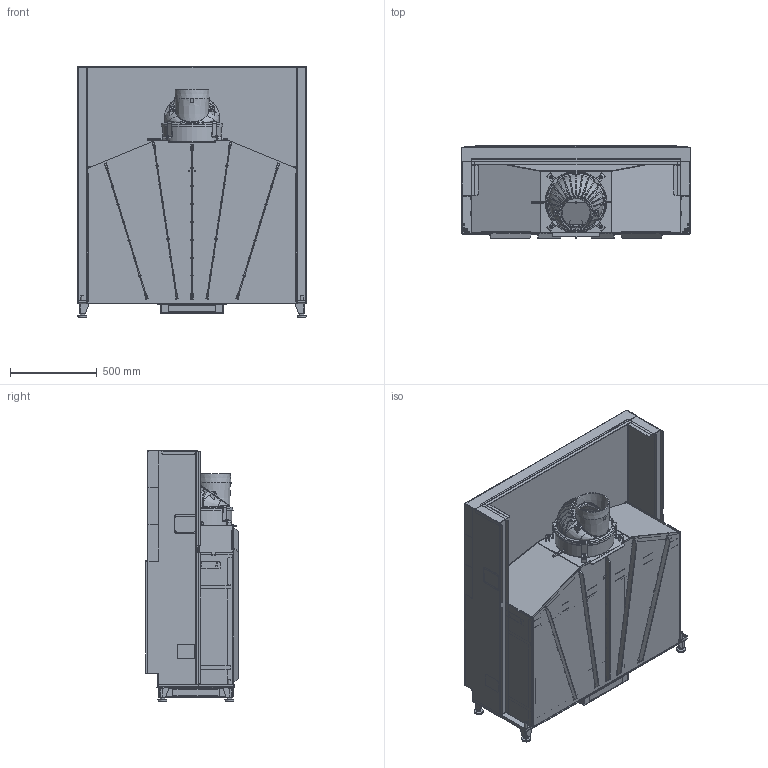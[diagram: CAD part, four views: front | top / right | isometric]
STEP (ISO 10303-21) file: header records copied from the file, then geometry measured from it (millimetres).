
FILE_DESCRIPTION(/* description */ (''),/* implementation_level */ '2;1');
FILE_NAME(/* name */ 'C:\ADSK_DM_WS\CAD_3D\03 Geraete\Violino 65x116\Zeichnungen\Violino 65x116 Abgang oben ohne Mantel.stp',/* time_stamp */ '2022-11-18T10:08:42+01:00',/* author */ ('CPI'),/* organization */ (''),/* preprocessor_version */ 'ST-DEVELOPER v18.1',/* originating_system */ 'Autodesk Inventor 2022',/* authorisation */ '');
FILE_SCHEMA (('AUTOMOTIVE_DESIGN { 1 0 10303 214 3 1 1 }'));
Products named in the file (7): 2022-04361; 2022-04347; 2022-04359; 2022-04357; 2022-04355; 2022-04353; 2022-04351
Assembly tree (6 placements, depth 2):
  2022-04361
    2022-04347
    2022-04359
    2022-04357
    2022-04355
    2022-04353
    2022-04351
Bounding box: 1326 x 534.5 x 1448 mm (x, y, z)
Volume: 93006384.3 mm3; surface area: 23775132.8 mm2
Topology: 15 solids, 18 shells, 6233 faces, 17090 edges, 10770 vertices
Faces by surface type: plane 3530, cylinder 2322, bspline 201, cone 140, torus 40
Full cylindrical faces by diameter (mm): 4.5 x4, 4.8 x12, 5.6 x1, 7 x2, 8 x12, 9.5 x12, 10 x7, 11.4 x6, 16 x18, 30 x4, 163 x1, 333 x1, 339 x1
Entity records: 210154 total; most frequent: CARTESIAN_POINT 43615, ORIENTED_EDGE 34208, DIRECTION 33206, EDGE_CURVE 17112, LINE 11390, VECTOR 11390, AXIS2_PLACEMENT_3D 10908, VERTEX_POINT 10770
